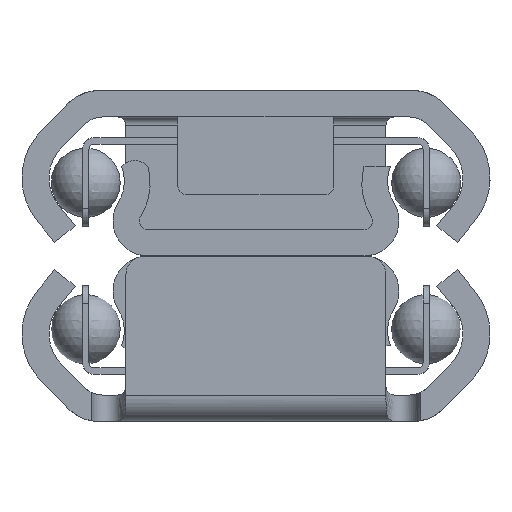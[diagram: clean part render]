
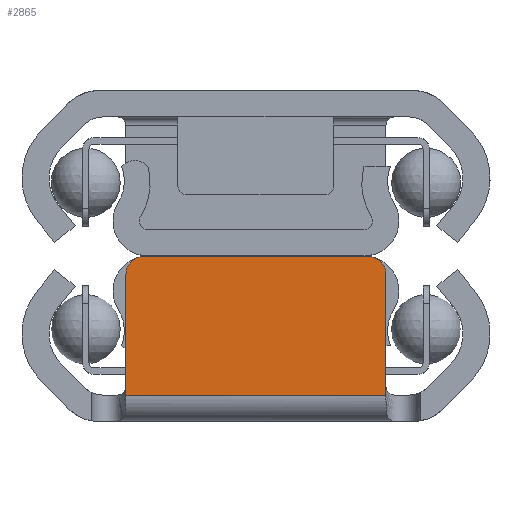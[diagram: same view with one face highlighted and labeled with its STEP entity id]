
A CAD part, left-side view. The second image highlights one B-rep face of the part: STEP entity #2865.
In plain terms, the highlighted planar face has unit normal (-1, 0, 0) as drawn and (0, 0, -1) by its records, which use the part's own axes.
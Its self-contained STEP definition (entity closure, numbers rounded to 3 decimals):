
#166=PLANE('',#3110);
#287=FACE_OUTER_BOUND('',#446,.T.);
#446=EDGE_LOOP('',(#2388,#2389,#2390,#2391,#2392,#2393,#2394,#2395));
#689=LINE('',#4729,#946);
#691=LINE('',#4733,#948);
#692=LINE('',#4735,#949);
#693=LINE('',#4737,#950);
#694=LINE('',#4739,#951);
#695=LINE('',#4741,#952);
#946=VECTOR('',#3768,13.);
#948=VECTOR('',#3772,6.48);
#949=VECTOR('',#3773,0.52);
#950=VECTOR('',#3774,15.);
#951=VECTOR('',#3775,0.52);
#952=VECTOR('',#3776,6.48);
#1115=CIRCLE('',#3108,1.);
#1116=CIRCLE('',#3111,1.);
#1351=VERTEX_POINT('',#4722);
#1352=VERTEX_POINT('',#4724);
#1353=VERTEX_POINT('',#4728);
#1354=VERTEX_POINT('',#4732);
#1355=VERTEX_POINT('',#4734);
#1356=VERTEX_POINT('',#4736);
#1357=VERTEX_POINT('',#4738);
#1358=VERTEX_POINT('',#4740);
#1720=EDGE_CURVE('',#1351,#1352,#1115,.T.);
#1722=EDGE_CURVE('',#1353,#1352,#689,.T.);
#1724=EDGE_CURVE('',#1351,#1354,#691,.T.);
#1725=EDGE_CURVE('',#1354,#1355,#692,.T.);
#1726=EDGE_CURVE('',#1356,#1355,#693,.T.);
#1727=EDGE_CURVE('',#1356,#1357,#694,.T.);
#1728=EDGE_CURVE('',#1357,#1358,#695,.T.);
#1729=EDGE_CURVE('',#1353,#1358,#1116,.T.);
#2388=ORIENTED_EDGE('',*,*,#1720,.F.);
#2389=ORIENTED_EDGE('',*,*,#1724,.T.);
#2390=ORIENTED_EDGE('',*,*,#1725,.T.);
#2391=ORIENTED_EDGE('',*,*,#1726,.F.);
#2392=ORIENTED_EDGE('',*,*,#1727,.T.);
#2393=ORIENTED_EDGE('',*,*,#1728,.T.);
#2394=ORIENTED_EDGE('',*,*,#1729,.F.);
#2395=ORIENTED_EDGE('',*,*,#1722,.T.);
#2865=ADVANCED_FACE('',(#287),#166,.F.);
#3108=AXIS2_PLACEMENT_3D('',#4725,#3763,#3764);
#3110=AXIS2_PLACEMENT_3D('',#4731,#3770,#3771);
#3111=AXIS2_PLACEMENT_3D('',#4742,#3777,#3778);
#3763=DIRECTION('center_axis',(0.,0.,1.));
#3764=DIRECTION('ref_axis',(0.707,-0.707,0.));
#3768=DIRECTION('',(0.,-1.,0.));
#3770=DIRECTION('center_axis',(0.,0.,1.));
#3771=DIRECTION('ref_axis',(1.,0.,0.));
#3772=DIRECTION('',(-1.,0.,0.));
#3773=DIRECTION('',(-1.,0.,0.));
#3774=DIRECTION('',(0.,-1.,0.));
#3775=DIRECTION('',(1.,0.,0.));
#3776=DIRECTION('',(1.,0.,0.));
#3777=DIRECTION('center_axis',(0.,0.,1.));
#3778=DIRECTION('ref_axis',(0.707,0.707,0.));
#4722=CARTESIAN_POINT('',(8.5,-7.5,0.));
#4724=CARTESIAN_POINT('',(9.5,-6.5,0.));
#4725=CARTESIAN_POINT('Origin',(8.5,-6.5,0.));
#4728=CARTESIAN_POINT('',(9.5,6.5,0.));
#4729=CARTESIAN_POINT('',(9.5,7.5,0.));
#4731=CARTESIAN_POINT('Origin',(2.626,0.002,0.));
#4732=CARTESIAN_POINT('',(2.02,-7.5,0.));
#4733=CARTESIAN_POINT('',(9.5,-7.5,0.));
#4734=CARTESIAN_POINT('',(1.5,-7.5,0.));
#4735=CARTESIAN_POINT('',(9.5,-7.5,0.));
#4736=CARTESIAN_POINT('',(1.5,7.5,0.));
#4737=CARTESIAN_POINT('',(1.5,4.532,0.));
#4738=CARTESIAN_POINT('',(2.02,7.5,0.));
#4739=CARTESIAN_POINT('',(0.,7.5,0.));
#4740=CARTESIAN_POINT('',(8.5,7.5,0.));
#4741=CARTESIAN_POINT('',(0.,7.5,0.));
#4742=CARTESIAN_POINT('Origin',(8.5,6.5,0.));
